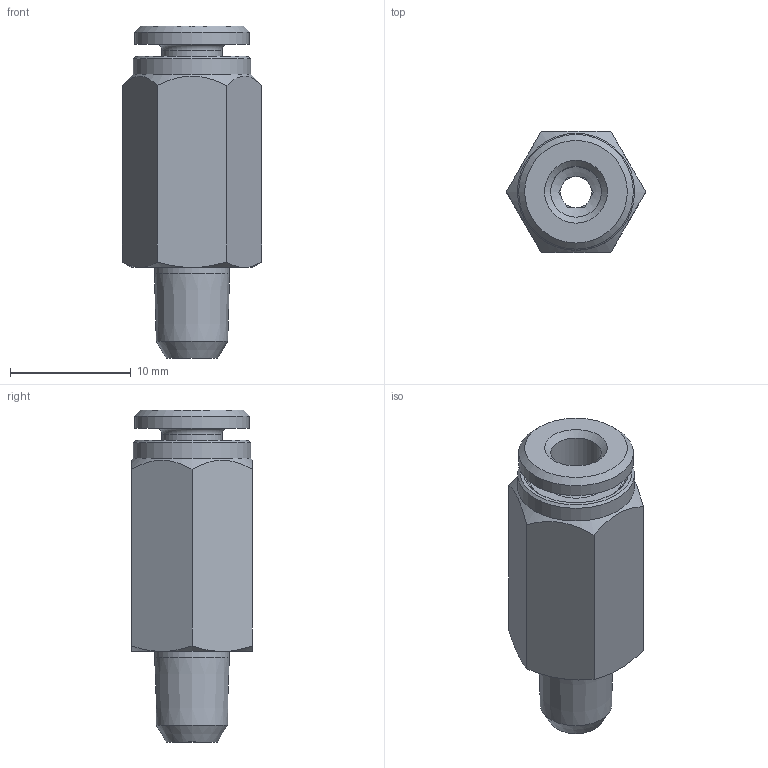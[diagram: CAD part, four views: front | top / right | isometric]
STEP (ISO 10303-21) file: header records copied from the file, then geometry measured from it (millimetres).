
FILE_DESCRIPTION(/* description */ (''),/* implementation_level */ '2;1');
FILE_NAME(/* name */ '9911_0701_0439_HSV-Gerade',/* time_stamp */ '2017-05-03T11:55:05+02:00',/* author */ (''),/* organization */ (''),/* preprocessor_version */ 'ST-DEVELOPER v16.5',/* originating_system */ 'HiCAD 2016 2102.1 Build 498',/* authorisation */ '');
FILE_SCHEMA (('AUTOMOTIVE_DESIGN { 1 0 10303 214 1 1 1 1 }'));
Length unit declared in the file: millimetre
Products named in the file (3): Root; RIVOLUZIONE_0; ONLINE_DR4_HSV_26.11.15
Assembly tree (2 placements, depth 2):
  Root
    RIVOLUZIONE_0
    ONLINE_DR4_HSV_26.11.15
Bounding box: 11.55 x 10 x 27.5 mm (x, y, z)
Volume: 1318.1 mm3; surface area: 1846.6 mm2
Topology: 2 solids, 2 shells, 64 faces, 145 edges, 90 vertices
Faces by surface type: plane 33, cone 18, cylinder 10, torus 3
Full cylindrical faces by diameter (mm): 2.6 x1, 4.2 x2, 5 x1, 6.219 x1, 7.3 x1, 8 x1, 8.3 x1, 9.5 x1, 9.7 x1
Entity records: 2876 total; most frequent: DIRECTION 332, CARTESIAN_POINT 270, PRESENTATION_STYLE_ASSIGNMENT 234, COLOUR_RGB 234, DRAUGHTING_PRE_DEFINED_CURVE_FONT 232, CURVE_STYLE 232, OVER_RIDING_STYLED_ITEM 232, ORIENTED_EDGE 232
